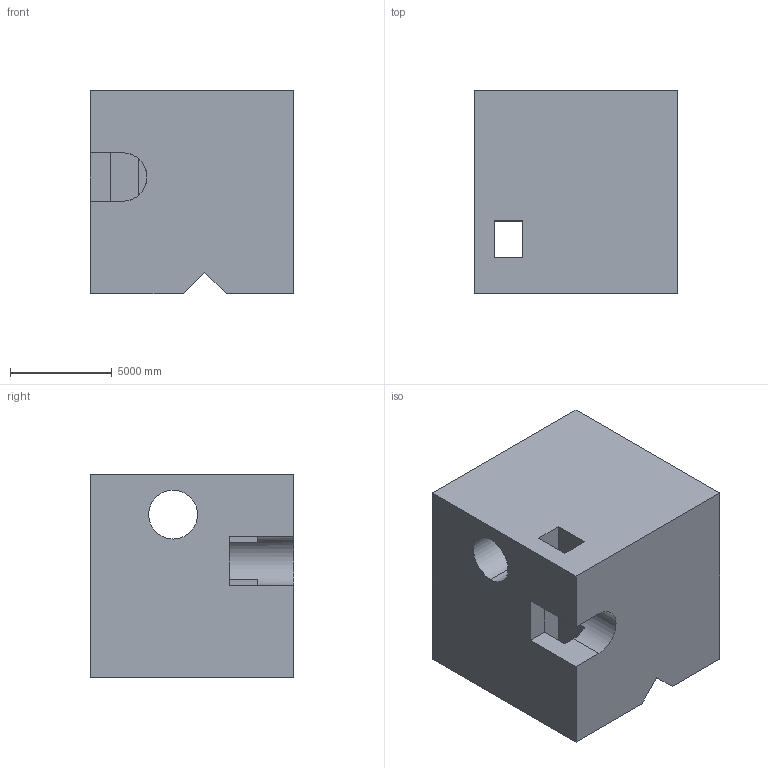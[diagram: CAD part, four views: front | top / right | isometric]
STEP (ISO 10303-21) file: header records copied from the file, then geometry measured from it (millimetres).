
FILE_DESCRIPTION (( 'STEP AP203' ), '1' );
FILE_NAME ('400.STEP', '2022-07-29T11:07:57', ( 'user' ), ( '' ), 'SwSTEP 2.0', 'SolidWorks 2021', '' );
FILE_SCHEMA (( 'CONFIG_CONTROL_DESIGN' ));
Length unit declared in the file: centimetre
Products named in the file (1): 400
Bounding box: 10000 x 10000 x 10000 mm (x, y, z)
Volume: 892749246389.8 mm3; surface area: 746069029.1 mm2
Topology: 1 solids, 1 shells, 25 faces, 75 edges, 50 vertices
Faces by surface type: plane 21, cylinder 4
Entity records: 928 total; most frequent: CARTESIAN_POINT 151, ORIENTED_EDGE 150, DIRECTION 137, EDGE_CURVE 75, VECTOR 65, LINE 65, VERTEX_POINT 50, AXIS2_PLACEMENT_3D 36
